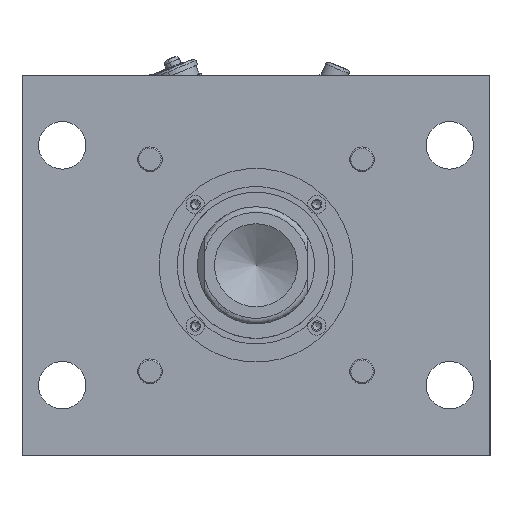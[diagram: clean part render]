
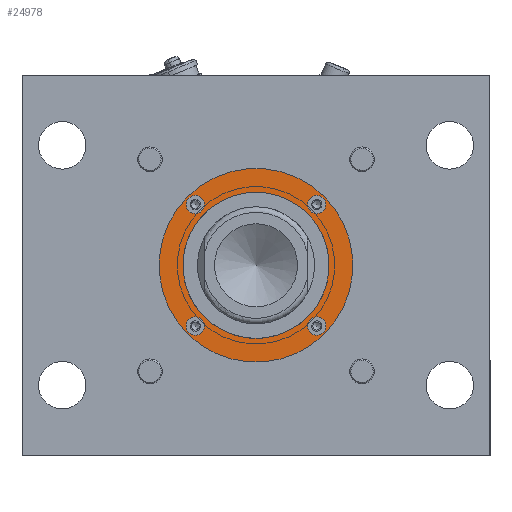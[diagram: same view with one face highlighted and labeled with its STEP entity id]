
A CAD part, front view. The second image highlights one B-rep face of the part: STEP entity #24978.
In plain terms, the highlighted planar face has unit normal (0, -1, 0) as drawn and (-1, 0, 0) by its records, which use the part's own axes.
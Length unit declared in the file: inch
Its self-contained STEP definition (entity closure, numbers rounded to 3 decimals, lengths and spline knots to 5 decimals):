
#220 = EDGE_LOOP ( 'NONE', ( #25454 ) ) ;
#1381 = DIRECTION ( 'NONE',  ( -1., 0., 0. ) ) ;
#1828 = VERTEX_POINT ( 'NONE', #21279 ) ;
#2252 = ORIENTED_EDGE ( 'NONE', *, *, #2491, .F. ) ;
#2491 = EDGE_CURVE ( 'NONE', #32585, #32585, #4489, .T. ) ;
#3276 = DIRECTION ( 'NONE',  ( -1., 0., 0. ) ) ;
#3337 = CIRCLE ( 'NONE', #8837, 1.65625 ) ;
#3747 = ORIENTED_EDGE ( 'NONE', *, *, #12134, .T. ) ;
#3815 = DIRECTION ( 'NONE',  ( 0., 0., 1. ) ) ;
#4013 = FACE_BOUND ( 'NONE', #32965, .T. ) ;
#4489 = CIRCLE ( 'NONE', #27088, 0.15625 ) ;
#6064 = FACE_BOUND ( 'NONE', #15664, .T. ) ;
#6274 = CARTESIAN_POINT ( 'NONE',  ( 0., 0., 1.46875 ) ) ;
#6951 = CARTESIAN_POINT ( 'NONE',  ( 0., 0., -1.3125 ) ) ;
#7681 = DIRECTION ( 'NONE',  ( -1., 0., 0. ) ) ;
#7888 = CARTESIAN_POINT ( 'NONE',  ( 0., 0., 1.625 ) ) ;
#8837 = AXIS2_PLACEMENT_3D ( 'NONE', #26532, #13208, #18414 ) ;
#9028 = DIRECTION ( 'NONE',  ( -1., 0., 0. ) ) ;
#9522 = EDGE_CURVE ( 'NONE', #11822, #11822, #10563, .T. ) ;
#9523 = AXIS2_PLACEMENT_3D ( 'NONE', #26306, #26530, #26648 ) ;
#10060 = EDGE_CURVE ( 'NONE', #31342, #31342, #11344, .T. ) ;
#10563 = CIRCLE ( 'NONE', #17920, 0.15625 ) ;
#10573 = CARTESIAN_POINT ( 'NONE',  ( 0., 0., -1.46875 ) ) ;
#10700 = ORIENTED_EDGE ( 'NONE', *, *, #10060, .F. ) ;
#10751 = EDGE_CURVE ( 'NONE', #1828, #1828, #27436, .T. ) ;
#11309 = DIRECTION ( 'NONE',  ( 0., 0., 1. ) ) ;
#11344 = CIRCLE ( 'NONE', #23709, 0.15625 ) ;
#11497 = CARTESIAN_POINT ( 'NONE',  ( 0., 1.46875, 0. ) ) ;
#11822 = VERTEX_POINT ( 'NONE', #34031 ) ;
#11916 = FACE_OUTER_BOUND ( 'NONE', #27985, .T. ) ;
#12074 = DIRECTION ( 'NONE',  ( 0., 0., 1. ) ) ;
#12134 = EDGE_CURVE ( 'NONE', #14271, #14271, #3337, .T. ) ;
#13208 = DIRECTION ( 'NONE',  ( -1., 0., 0. ) ) ;
#14271 = VERTEX_POINT ( 'NONE', #21048 ) ;
#15229 = EDGE_LOOP ( 'NONE', ( #10700 ) ) ;
#15664 = EDGE_LOOP ( 'NONE', ( #30344 ) ) ;
#17920 = AXIS2_PLACEMENT_3D ( 'NONE', #11497, #9028, #3815 ) ;
#18414 = DIRECTION ( 'NONE',  ( 0., 0., 1. ) ) ;
#21048 = CARTESIAN_POINT ( 'NONE',  ( 0., 0., 1.65625 ) ) ;
#21279 = CARTESIAN_POINT ( 'NONE',  ( 0., 0., 1.25 ) ) ;
#21833 = EDGE_LOOP ( 'NONE', ( #31151 ) ) ;
#23136 = DIRECTION ( 'NONE',  ( 0., 0., 1. ) ) ;
#23709 = AXIS2_PLACEMENT_3D ( 'NONE', #6274, #3276, #11309 ) ;
#23908 = EDGE_CURVE ( 'NONE', #30850, #30850, #24409, .T. ) ;
#24409 = CIRCLE ( 'NONE', #31754, 0.15625 ) ;
#24978 = ADVANCED_FACE ( 'NONE', ( #26866, #28077, #29752, #4013, #6064, #11916 ), #31530, .F. ) ;
#25074 = CARTESIAN_POINT ( 'NONE',  ( 0., -1.46875, 0. ) ) ;
#25081 = AXIS2_PLACEMENT_3D ( 'NONE', #31250, #7681, #23136 ) ;
#25454 = ORIENTED_EDGE ( 'NONE', *, *, #23908, .F. ) ;
#26306 = CARTESIAN_POINT ( 'NONE',  ( 0., 1.25, 0. ) ) ;
#26530 = DIRECTION ( 'NONE',  ( 1., 0., 0. ) ) ;
#26532 = CARTESIAN_POINT ( 'NONE',  ( 0., 0., 0. ) ) ;
#26648 = DIRECTION ( 'NONE',  ( 0., 0., -1. ) ) ;
#26866 = FACE_BOUND ( 'NONE', #21833, .T. ) ;
#27088 = AXIS2_PLACEMENT_3D ( 'NONE', #10573, #32126, #31781 ) ;
#27436 = CIRCLE ( 'NONE', #25081, 1.25 ) ;
#27985 = EDGE_LOOP ( 'NONE', ( #3747 ) ) ;
#28077 = FACE_BOUND ( 'NONE', #15229, .T. ) ;
#29752 = FACE_BOUND ( 'NONE', #220, .T. ) ;
#29911 = CARTESIAN_POINT ( 'NONE',  ( 0., -1.46875, 0.15625 ) ) ;
#30344 = ORIENTED_EDGE ( 'NONE', *, *, #10751, .F. ) ;
#30850 = VERTEX_POINT ( 'NONE', #29911 ) ;
#31151 = ORIENTED_EDGE ( 'NONE', *, *, #9522, .F. ) ;
#31250 = CARTESIAN_POINT ( 'NONE',  ( 0., 0., 0. ) ) ;
#31342 = VERTEX_POINT ( 'NONE', #7888 ) ;
#31530 = PLANE ( 'NONE',  #9523 ) ;
#31754 = AXIS2_PLACEMENT_3D ( 'NONE', #25074, #1381, #12074 ) ;
#31781 = DIRECTION ( 'NONE',  ( 0., 0., 1. ) ) ;
#32126 = DIRECTION ( 'NONE',  ( -1., 0., 0. ) ) ;
#32585 = VERTEX_POINT ( 'NONE', #6951 ) ;
#32965 = EDGE_LOOP ( 'NONE', ( #2252 ) ) ;
#34031 = CARTESIAN_POINT ( 'NONE',  ( 0., 1.46875, 0.15625 ) ) ;
